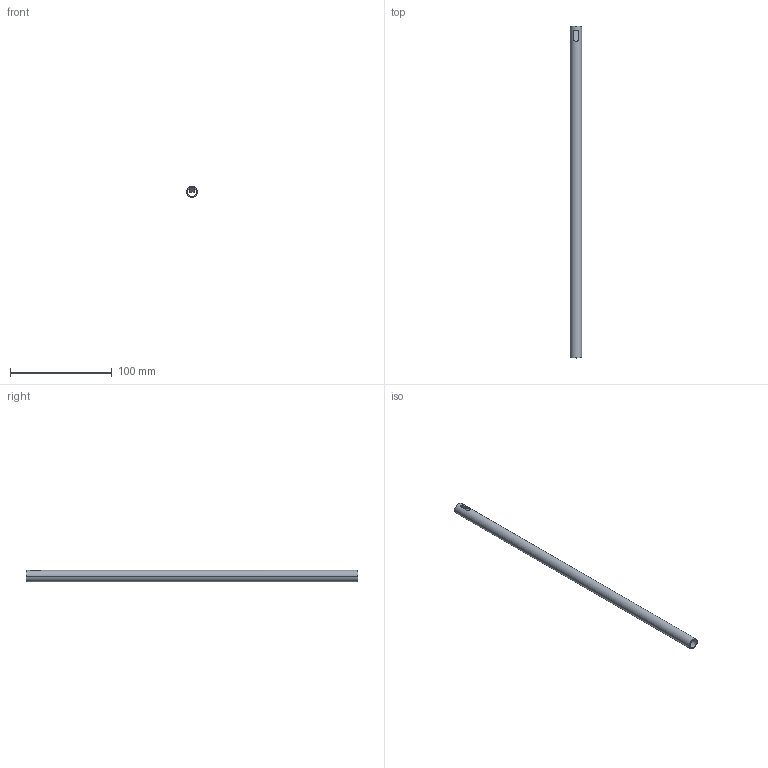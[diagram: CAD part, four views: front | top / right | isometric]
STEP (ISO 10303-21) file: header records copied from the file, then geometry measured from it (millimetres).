
FILE_DESCRIPTION (( 'STEP AP214' ), '1' );
FILE_NAME ('Relingsrohr_2S-Rundrel_P760604300_350.step', '2010-09-07T12:59:21', ( 'grass' ), ( '' ), 'SwSTEP 2.0', 'SolidWorks 2010', '' );
FILE_SCHEMA (( 'AUTOMOTIVE_DESIGN' ));
Length unit declared in the file: millimetre
Products named in the file (1): Relingsrohr_2S-Rundrel_P760604300_350
Bounding box: 11 x 326 x 11 mm (x, y, z)
Volume: 10239.4 mm3; surface area: 20586.5 mm2
Topology: 1 solids, 1 shells, 14 faces, 34 edges, 22 vertices
Faces by surface type: plane 10, cylinder 4
Entity records: 476 total; most frequent: CARTESIAN_POINT 77, DIRECTION 72, ORIENTED_EDGE 68, EDGE_CURVE 34, AXIS2_PLACEMENT_3D 25, VECTOR 22, LINE 22, VERTEX_POINT 22
